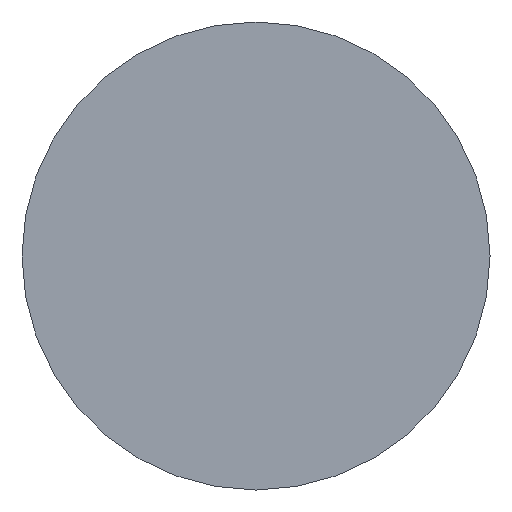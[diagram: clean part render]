
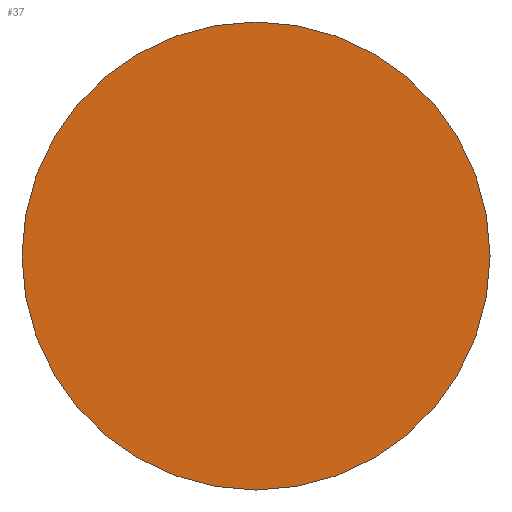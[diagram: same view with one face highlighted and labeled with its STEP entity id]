
A CAD part, front view. The second image highlights one B-rep face of the part: STEP entity #37.
In plain terms, the highlighted planar face has unit normal (0, -1, 0).
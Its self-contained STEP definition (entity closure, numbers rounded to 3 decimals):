
#15=PLANE('',#44);
#19=FACE_OUTER_BOUND('',#23,.T.);
#23=EDGE_LOOP('',(#33));
#26=CIRCLE('',#43,13.5);
#28=VERTEX_POINT('',#62);
#30=EDGE_CURVE('',#28,#28,#26,.T.);
#33=ORIENTED_EDGE('',*,*,#30,.T.);
#37=ADVANCED_FACE('',(#19),#15,.F.);
#43=AXIS2_PLACEMENT_3D('',#63,#52,#53);
#44=AXIS2_PLACEMENT_3D('',#64,#54,#55);
#52=DIRECTION('center_axis',(0.,-1.,0.));
#53=DIRECTION('ref_axis',(1.,0.,0.));
#54=DIRECTION('center_axis',(0.,1.,0.));
#55=DIRECTION('ref_axis',(0.,0.,1.));
#62=CARTESIAN_POINT('',(-13.5,0.,0.));
#63=CARTESIAN_POINT('Origin',(0.,0.,0.));
#64=CARTESIAN_POINT('Origin',(0.,0.,0.));
